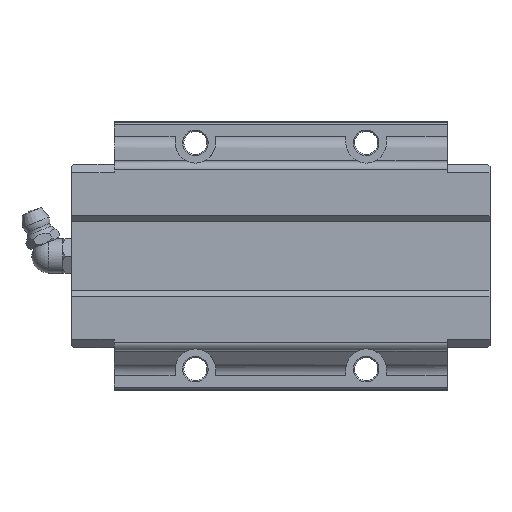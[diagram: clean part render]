
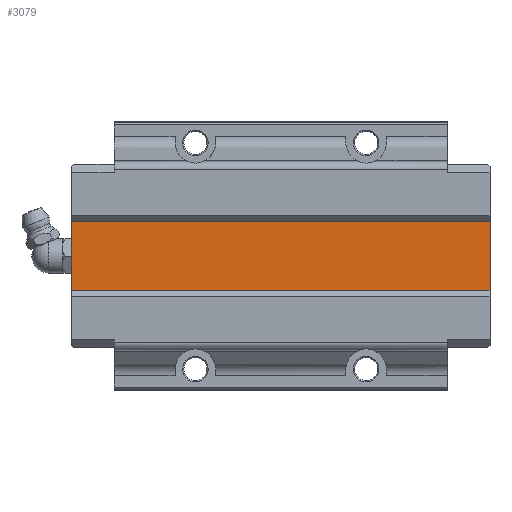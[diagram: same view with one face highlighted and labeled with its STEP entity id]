
A CAD part, front view. The second image highlights one B-rep face of the part: STEP entity #3079.
In plain terms, the highlighted planar face has unit normal (0, -1, 0).
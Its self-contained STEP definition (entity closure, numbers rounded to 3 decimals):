
#72=LINE('',#4614,#334);
#115=LINE('',#4737,#377);
#284=LINE('',#5334,#546);
#285=LINE('',#5336,#547);
#334=VECTOR('',#3625,1000.);
#377=VECTOR('',#3720,1000.);
#546=VECTOR('',#4213,1000.);
#547=VECTOR('',#4216,1000.);
#642=PLANE('',#3398);
#1605=ORIENTED_EDGE('',*,*,#1856,.F.);
#1606=ORIENTED_EDGE('',*,*,#2111,.F.);
#1607=ORIENTED_EDGE('',*,*,#1794,.T.);
#1608=ORIENTED_EDGE('',*,*,#2112,.T.);
#1794=EDGE_CURVE('',#2202,#2201,#72,.T.);
#1856=EDGE_CURVE('',#2255,#2256,#115,.T.);
#2111=EDGE_CURVE('',#2202,#2255,#284,.T.);
#2112=EDGE_CURVE('',#2201,#2256,#285,.T.);
#2201=VERTEX_POINT('',#4613);
#2202=VERTEX_POINT('',#4615);
#2255=VERTEX_POINT('',#4736);
#2256=VERTEX_POINT('',#4738);
#2655=EDGE_LOOP('',(#1605,#1606,#1607,#1608));
#2874=FACE_BOUND('',#2655,.T.);
#3079=ADVANCED_FACE('',(#2874),#642,.T.);
#3398=AXIS2_PLACEMENT_3D('',#5335,#4214,#4215);
#3625=DIRECTION('',(0.,0.,1.));
#3720=DIRECTION('',(0.,0.,1.));
#4213=DIRECTION('',(-1.,0.,0.));
#4214=DIRECTION('',(0.,-1.,0.));
#4215=DIRECTION('',(0.,0.,-1.));
#4216=DIRECTION('',(-1.,0.,0.));
#4613=CARTESIAN_POINT('',(49.,11.9,8.156));
#4614=CARTESIAN_POINT('',(49.,11.9,-8.156));
#4615=CARTESIAN_POINT('',(49.,11.9,-8.156));
#4736=CARTESIAN_POINT('',(-49.,11.9,-8.156));
#4737=CARTESIAN_POINT('',(-49.,11.9,-8.156));
#4738=CARTESIAN_POINT('',(-49.,11.9,8.156));
#5334=CARTESIAN_POINT('',(49.,11.9,-8.156));
#5335=CARTESIAN_POINT('',(49.,11.9,-8.156));
#5336=CARTESIAN_POINT('',(49.,11.9,8.156));
